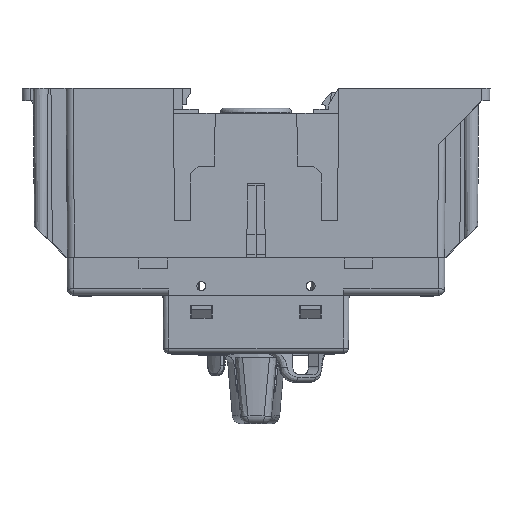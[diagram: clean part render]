
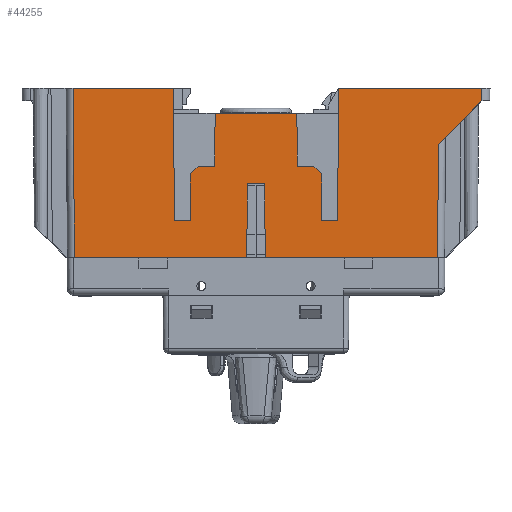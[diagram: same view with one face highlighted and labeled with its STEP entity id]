
A CAD part, front view. The second image highlights one B-rep face of the part: STEP entity #44255.
In plain terms, the highlighted planar face has unit normal (0, -1, -0.009).
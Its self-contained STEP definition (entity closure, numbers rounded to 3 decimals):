
#39321=CARTESIAN_POINT('',(11.58,86.797,105.866));
#39322=VERTEX_POINT('',#39321);
#39329=CARTESIAN_POINT('',(31.357,86.797,105.866));
#39330=VERTEX_POINT('',#39329);
#39331=CARTESIAN_POINT('',(31.357,86.797,105.866));
#39332=DIRECTION('',(-1.0,0.0,0.0));
#39333=VECTOR('',#39332,19.777);
#39334=LINE('',#39331,#39333);
#39335=EDGE_CURVE('',#39330,#39322,#39334,.T.);
#41078=CARTESIAN_POINT('',(65.369,87.101,71.066));
#41079=VERTEX_POINT('',#41078);
#41087=CARTESIAN_POINT('',(23.705,87.101,71.066));
#41088=VERTEX_POINT('',#41087);
#41089=CARTESIAN_POINT('',(65.369,87.101,71.066));
#41090=DIRECTION('',(-1.0,0.0,0.0));
#41091=VECTOR('',#41090,41.663);
#41092=LINE('',#41089,#41091);
#41093=EDGE_CURVE('',#41088,#41079,#41092,.F.);
#41331=CARTESIAN_POINT('',(19.231,87.101,71.066));
#41332=VERTEX_POINT('',#41331);
#41339=CARTESIAN_POINT('',(-22.432,87.101,71.066));
#41340=VERTEX_POINT('',#41339);
#41341=CARTESIAN_POINT('',(19.231,87.101,71.066));
#41342=DIRECTION('',(-1.0,0.0,0.0));
#41343=VECTOR('',#41342,41.663);
#41344=LINE('',#41341,#41343);
#41345=EDGE_CURVE('',#41332,#41340,#41344,.T.);
#42093=CARTESIAN_POINT('',(23.551,86.947,88.766));
#42094=VERTEX_POINT('',#42093);
#42101=CARTESIAN_POINT('',(19.386,86.947,88.766));
#42102=VERTEX_POINT('',#42101);
#42103=CARTESIAN_POINT('',(19.386,86.947,88.766));
#42104=DIRECTION('',(1.0,0.0,0.0));
#42105=VECTOR('',#42104,4.165);
#42106=LINE('',#42103,#42105);
#42107=EDGE_CURVE('',#42102,#42094,#42106,.T.);
#44088=CARTESIAN_POINT('',(19.231,87.101,71.066));
#44089=DIRECTION('',(0.009,-0.009,1.));
#44090=VECTOR('',#44089,17.701);
#44091=LINE('',#44088,#44090);
#44092=EDGE_CURVE('',#41332,#42102,#44091,.T.);
#44097=CARTESIAN_POINT('',(21.468,86.797,105.867));
#44098=DIRECTION('',(0.,1.,0.009));
#44099=DIRECTION('',(0.,-0.009,1.));
#44100=AXIS2_PLACEMENT_3D('',#44097,#44098,#44099);
#44101=PLANE('',#44100);
#44102=CARTESIAN_POINT('',(23.705,87.101,71.066));
#44103=DIRECTION('',(-0.009,-0.009,1.));
#44104=VECTOR('',#44103,17.701);
#44105=LINE('',#44102,#44104);
#44106=EDGE_CURVE('',#42094,#41088,#44105,.F.);
#44107=ORIENTED_EDGE('',*,*,#44106,.T.);
#44108=ORIENTED_EDGE('',*,*,#41093,.T.);
#44109=CARTESIAN_POINT('',(65.607,86.863,98.405));
#44110=VERTEX_POINT('',#44109);
#44111=CARTESIAN_POINT('',(65.607,86.863,98.405));
#44112=DIRECTION('',(-0.009,0.009,-1.));
#44113=VECTOR('',#44112,27.341);
#44114=LINE('',#44111,#44113);
#44115=EDGE_CURVE('',#44110,#41079,#44114,.T.);
#44116=ORIENTED_EDGE('',*,*,#44115,.F.);
#44117=CARTESIAN_POINT('',(76.042,86.772,108.84));
#44118=VERTEX_POINT('',#44117);
#44119=CARTESIAN_POINT('',(65.607,86.863,98.405));
#44120=DIRECTION('',(0.707,-0.006,0.707));
#44121=VECTOR('',#44120,14.758);
#44122=LINE('',#44119,#44121);
#44123=EDGE_CURVE('',#44110,#44118,#44122,.T.);
#44124=ORIENTED_EDGE('',*,*,#44123,.T.);
#44125=CARTESIAN_POINT('',(76.069,86.745,111.866));
#44126=VERTEX_POINT('',#44125);
#44127=CARTESIAN_POINT('',(76.069,86.745,111.866));
#44128=DIRECTION('',(-0.009,0.009,-1.));
#44129=VECTOR('',#44128,3.027);
#44130=LINE('',#44127,#44129);
#44131=EDGE_CURVE('',#44126,#44118,#44130,.T.);
#44132=ORIENTED_EDGE('',*,*,#44131,.F.);
#44133=CARTESIAN_POINT('',(41.471,86.745,111.866));
#44134=VERTEX_POINT('',#44133);
#44135=CARTESIAN_POINT('',(76.069,86.745,111.866));
#44136=DIRECTION('',(-1.0,0.0,0.0));
#44137=VECTOR('',#44136,34.598);
#44138=LINE('',#44135,#44137);
#44139=EDGE_CURVE('',#44126,#44134,#44138,.T.);
#44140=ORIENTED_EDGE('',*,*,#44139,.T.);
#44141=CARTESIAN_POINT('',(41.192,87.024,79.866));
#44142=VERTEX_POINT('',#44141);
#44143=CARTESIAN_POINT('',(41.471,86.745,111.866));
#44144=DIRECTION('',(-0.009,0.009,-1.));
#44145=VECTOR('',#44144,32.002);
#44146=LINE('',#44143,#44145);
#44147=EDGE_CURVE('',#44142,#44134,#44146,.F.);
#44148=ORIENTED_EDGE('',*,*,#44147,.F.);
#44149=CARTESIAN_POINT('',(37.418,87.024,79.866));
#44150=VERTEX_POINT('',#44149);
#44151=CARTESIAN_POINT('',(41.192,87.024,79.866));
#44152=DIRECTION('',(-1.0,0.0,0.0));
#44153=VECTOR('',#44152,3.773);
#44154=LINE('',#44151,#44153);
#44155=EDGE_CURVE('',#44142,#44150,#44154,.T.);
#44156=ORIENTED_EDGE('',*,*,#44155,.T.);
#44157=CARTESIAN_POINT('',(37.319,86.925,91.216));
#44158=VERTEX_POINT('',#44157);
#44159=CARTESIAN_POINT('',(37.418,87.024,79.866));
#44160=DIRECTION('',(-0.009,-0.009,1.));
#44161=VECTOR('',#44160,11.351);
#44162=LINE('',#44159,#44161);
#44163=EDGE_CURVE('',#44150,#44158,#44162,.T.);
#44164=ORIENTED_EDGE('',*,*,#44163,.T.);
#44165=CARTESIAN_POINT('',(35.453,86.909,93.066));
#44166=VERTEX_POINT('',#44165);
#44167=CARTESIAN_POINT('',(35.453,86.909,93.066));
#44168=DIRECTION('',(0.71,0.006,-0.704));
#44169=VECTOR('',#44168,2.628);
#44170=LINE('',#44167,#44169);
#44171=EDGE_CURVE('',#44166,#44158,#44170,.T.);
#44172=ORIENTED_EDGE('',*,*,#44171,.F.);
#44173=CARTESIAN_POINT('',(31.468,86.909,93.066));
#44174=VERTEX_POINT('',#44173);
#44175=CARTESIAN_POINT('',(35.453,86.909,93.066));
#44176=DIRECTION('',(-1.0,0.0,0.0));
#44177=VECTOR('',#44176,3.985);
#44178=LINE('',#44175,#44177);
#44179=EDGE_CURVE('',#44166,#44174,#44178,.T.);
#44180=ORIENTED_EDGE('',*,*,#44179,.T.);
#44181=CARTESIAN_POINT('',(31.468,86.909,93.066));
#44182=DIRECTION('',(-0.009,-0.009,1.));
#44183=VECTOR('',#44182,12.801);
#44184=LINE('',#44181,#44183);
#44185=EDGE_CURVE('',#44174,#39330,#44184,.T.);
#44186=ORIENTED_EDGE('',*,*,#44185,.T.);
#44187=ORIENTED_EDGE('',*,*,#39335,.T.);
#44188=CARTESIAN_POINT('',(11.468,86.909,93.066));
#44189=VERTEX_POINT('',#44188);
#44190=CARTESIAN_POINT('',(11.58,86.797,105.866));
#44191=DIRECTION('',(-0.009,0.009,-1.));
#44192=VECTOR('',#44191,12.801);
#44193=LINE('',#44190,#44192);
#44194=EDGE_CURVE('',#39322,#44189,#44193,.T.);
#44195=ORIENTED_EDGE('',*,*,#44194,.T.);
#44196=CARTESIAN_POINT('',(7.484,86.909,93.066));
#44197=VERTEX_POINT('',#44196);
#44198=CARTESIAN_POINT('',(11.468,86.909,93.066));
#44199=DIRECTION('',(-1.0,0.0,0.0));
#44200=VECTOR('',#44199,3.985);
#44201=LINE('',#44198,#44200);
#44202=EDGE_CURVE('',#44189,#44197,#44201,.T.);
#44203=ORIENTED_EDGE('',*,*,#44202,.T.);
#44204=CARTESIAN_POINT('',(5.618,86.925,91.216));
#44205=VERTEX_POINT('',#44204);
#44206=CARTESIAN_POINT('',(5.618,86.925,91.216));
#44207=DIRECTION('',(0.71,-0.006,0.704));
#44208=VECTOR('',#44207,2.628);
#44209=LINE('',#44206,#44208);
#44210=EDGE_CURVE('',#44205,#44197,#44209,.T.);
#44211=ORIENTED_EDGE('',*,*,#44210,.F.);
#44212=CARTESIAN_POINT('',(5.518,87.024,79.866));
#44213=VERTEX_POINT('',#44212);
#44214=CARTESIAN_POINT('',(5.618,86.925,91.216));
#44215=DIRECTION('',(-0.009,0.009,-1.));
#44216=VECTOR('',#44215,11.351);
#44217=LINE('',#44214,#44216);
#44218=EDGE_CURVE('',#44205,#44213,#44217,.T.);
#44219=ORIENTED_EDGE('',*,*,#44218,.T.);
#44220=CARTESIAN_POINT('',(1.745,87.024,79.866));
#44221=VERTEX_POINT('',#44220);
#44222=CARTESIAN_POINT('',(5.518,87.024,79.866));
#44223=DIRECTION('',(-1.0,0.0,0.0));
#44224=VECTOR('',#44223,3.773);
#44225=LINE('',#44222,#44224);
#44226=EDGE_CURVE('',#44213,#44221,#44225,.T.);
#44227=ORIENTED_EDGE('',*,*,#44226,.T.);
#44228=CARTESIAN_POINT('',(1.466,86.745,111.866));
#44229=VERTEX_POINT('',#44228);
#44230=CARTESIAN_POINT('',(1.745,87.024,79.866));
#44231=DIRECTION('',(-0.009,-0.009,1.));
#44232=VECTOR('',#44231,32.002);
#44233=LINE('',#44230,#44232);
#44234=EDGE_CURVE('',#44221,#44229,#44233,.T.);
#44235=ORIENTED_EDGE('',*,*,#44234,.T.);
#44236=CARTESIAN_POINT('',(-22.788,86.745,111.866));
#44237=VERTEX_POINT('',#44236);
#44238=CARTESIAN_POINT('',(-22.788,86.745,111.866));
#44239=DIRECTION('',(1.0,0.0,0.0));
#44240=VECTOR('',#44239,24.254);
#44241=LINE('',#44238,#44240);
#44242=EDGE_CURVE('',#44237,#44229,#44241,.T.);
#44243=ORIENTED_EDGE('',*,*,#44242,.F.);
#44244=CARTESIAN_POINT('',(-22.432,87.101,71.066));
#44245=DIRECTION('',(-0.009,-0.009,1.));
#44246=VECTOR('',#44245,40.803);
#44247=LINE('',#44244,#44246);
#44248=EDGE_CURVE('',#41340,#44237,#44247,.T.);
#44249=ORIENTED_EDGE('',*,*,#44248,.F.);
#44250=ORIENTED_EDGE('',*,*,#41345,.F.);
#44251=ORIENTED_EDGE('',*,*,#44092,.T.);
#44252=ORIENTED_EDGE('',*,*,#42107,.T.);
#44253=EDGE_LOOP('',(#44107,#44108,#44116,#44124,#44132,#44140,#44148,#44156,#44164,#44172,#44180,#44186,#44187,#44195,#44203,#44211,#44219,#44227,#44235,#44243,#44249,#44250,#44251,#44252));
#44254=FACE_OUTER_BOUND('',#44253,.T.);
#44255=ADVANCED_FACE('',(#44254),#44101,.F.);
